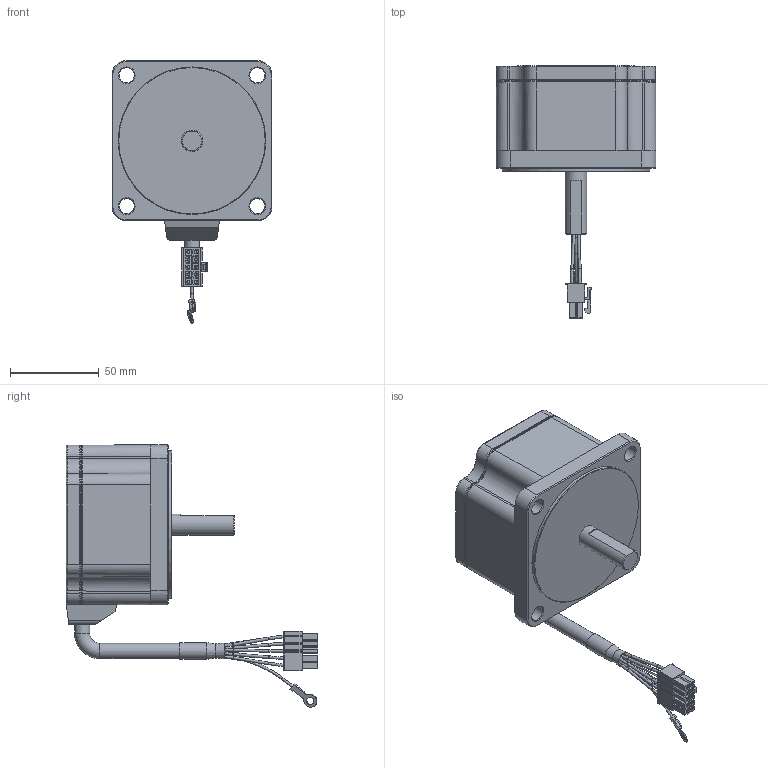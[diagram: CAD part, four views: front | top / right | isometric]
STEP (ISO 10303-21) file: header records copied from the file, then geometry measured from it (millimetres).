
FILE_DESCRIPTION((''),'2;1');
FILE_NAME('E:\2공장-도면\3D\STEP FILE\K9BS90N□.stp','2014-08-18T12:13:39',('輺'),(''),'Autodesk Inventor 2008','Autodesk Inventor 2008','');
FILE_SCHEMA(('CONFIG_CONTROL_DESIGN'));
Length unit declared in the file: millimetre
Products named in the file (1): 부품32
Bounding box: 90 x 141.6 x 147.66 mm (x, y, z)
Volume: 439222.9 mm3; surface area: 59897.4 mm2
Topology: 1 solids, 2 shells, 744 faces, 2004 edges, 1268 vertices
Faces by surface type: plane 522, bspline 91, cylinder 85, cone 27, torus 19
Full cylindrical faces by diameter (mm): 1.45 x3, 4.3 x1, 8.5 x6, 9 x1, 9.4 x1, 12 x2, 83 x1, 86.5 x1
Entity records: 27575 total; most frequent: CARTESIAN_POINT 8677, ORIENTED_EDGE 3866, DIRECTION 3470, EDGE_CURVE 1933, VECTOR 1482, LINE 1482, VERTEX_POINT 1253, AXIS2_PLACEMENT_3D 994
